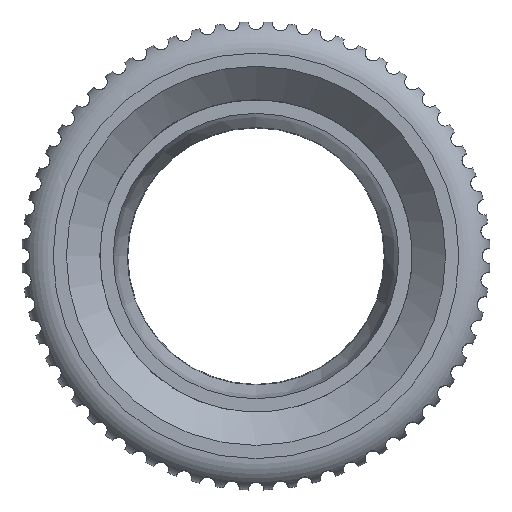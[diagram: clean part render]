
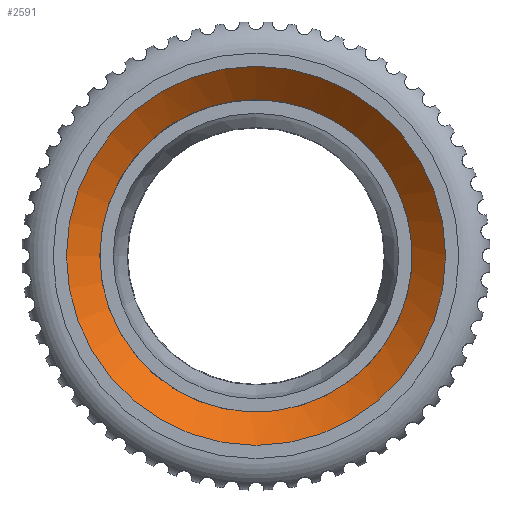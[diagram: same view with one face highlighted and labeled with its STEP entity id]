
A CAD part, top view. The second image highlights one B-rep face of the part: STEP entity #2591.
In plain terms, the highlighted conical face has half-angle 48.151 degrees and reference radius 11.575 mm.
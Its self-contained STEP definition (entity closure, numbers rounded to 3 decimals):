
#15=CONICAL_SURFACE('',#2879,11.575,0.84);
#166=FACE_OUTER_BOUND('',#307,.T.);
#307=EDGE_LOOP('',(#2314,#2315,#2316,#2317,#2318,#2319));
#310=CIRCLE('',#2608,10.011);
#443=CIRCLE('',#2871,12.15);
#444=CIRCLE('',#2875,10.011);
#445=CIRCLE('',#2876,10.011);
#714=LINE('',#8361,#841);
#841=VECTOR('',#3555,11.575);
#844=VERTEX_POINT('',#3563);
#845=VERTEX_POINT('',#3592);
#1108=VERTEX_POINT('',#7382);
#1109=VERTEX_POINT('',#8013);
#1113=EDGE_CURVE('',#845,#844,#310,.F.);
#1503=EDGE_CURVE('',#1108,#1108,#443,.T.);
#1510=EDGE_CURVE('',#1109,#845,#444,.F.);
#1511=EDGE_CURVE('',#844,#1109,#445,.F.);
#1515=EDGE_CURVE('',#1108,#1109,#714,.T.);
#2314=ORIENTED_EDGE('',*,*,#1503,.T.);
#2315=ORIENTED_EDGE('',*,*,#1515,.T.);
#2316=ORIENTED_EDGE('',*,*,#1510,.T.);
#2317=ORIENTED_EDGE('',*,*,#1113,.T.);
#2318=ORIENTED_EDGE('',*,*,#1511,.T.);
#2319=ORIENTED_EDGE('',*,*,#1515,.F.);
#2591=ADVANCED_FACE('',(#166),#15,.F.);
#2608=AXIS2_PLACEMENT_3D('',#3593,#2886,#2887);
#2871=AXIS2_PLACEMENT_3D('',#7383,#3537,#3538);
#2875=AXIS2_PLACEMENT_3D('',#8014,#3545,#3546);
#2876=AXIS2_PLACEMENT_3D('',#8015,#3547,#3548);
#2879=AXIS2_PLACEMENT_3D('',#8360,#3553,#3554);
#2886=DIRECTION('center_axis',(0.,0.,1.));
#2887=DIRECTION('ref_axis',(0.,1.,0.));
#3537=DIRECTION('center_axis',(0.,0.,1.));
#3538=DIRECTION('ref_axis',(0.,-1.,0.));
#3545=DIRECTION('center_axis',(0.,0.,1.));
#3546=DIRECTION('ref_axis',(0.,1.,0.));
#3547=DIRECTION('center_axis',(0.,0.,1.));
#3548=DIRECTION('ref_axis',(0.,1.,0.));
#3553=DIRECTION('center_axis',(0.,0.,1.));
#3554=DIRECTION('ref_axis',(0.,-1.,0.));
#3555=DIRECTION('',(0.,-0.745,-0.667));
#3563=CARTESIAN_POINT('',(-6.537,52.582,25.724));
#3592=CARTESIAN_POINT('',(-6.537,37.418,25.724));
#3593=CARTESIAN_POINT('Origin',(0.,45.,25.724));
#7382=CARTESIAN_POINT('',(0.,57.15,27.64));
#7383=CARTESIAN_POINT('Origin',(0.,45.,27.64));
#8013=CARTESIAN_POINT('',(0.,55.011,25.724));
#8014=CARTESIAN_POINT('Origin',(0.,45.,25.724));
#8015=CARTESIAN_POINT('Origin',(0.,45.,25.724));
#8360=CARTESIAN_POINT('Origin',(0.,45.,27.125));
#8361=CARTESIAN_POINT('',(0.,56.575,27.125));
